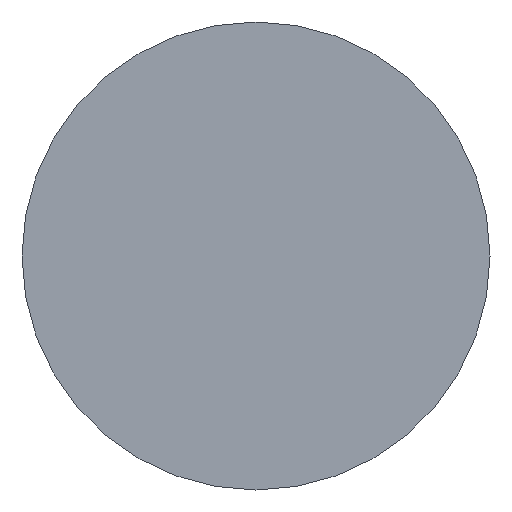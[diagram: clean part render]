
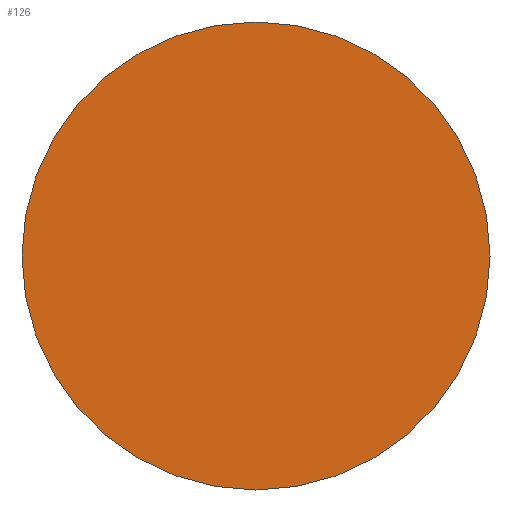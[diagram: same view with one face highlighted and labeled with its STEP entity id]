
A CAD part, front view. The second image highlights one B-rep face of the part: STEP entity #126.
In plain terms, the highlighted planar face has unit normal (0, -1, 0).
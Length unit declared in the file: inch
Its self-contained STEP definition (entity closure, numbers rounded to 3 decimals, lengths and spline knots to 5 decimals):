
#18=PLANE('',#162);
#30=FACE_OUTER_BOUND('',#38,.T.);
#38=EDGE_LOOP('',(#115,#116));
#53=CIRCLE('',#160,0.25);
#54=CIRCLE('',#161,0.25);
#66=VERTEX_POINT('',#243);
#67=VERTEX_POINT('',#244);
#82=EDGE_CURVE('',#66,#67,#53,.T.);
#83=EDGE_CURVE('',#67,#66,#54,.T.);
#115=ORIENTED_EDGE('',*,*,#82,.T.);
#116=ORIENTED_EDGE('',*,*,#83,.T.);
#126=ADVANCED_FACE('',(#30),#18,.T.);
#160=AXIS2_PLACEMENT_3D('',#245,#203,#204);
#161=AXIS2_PLACEMENT_3D('',#246,#205,#206);
#162=AXIS2_PLACEMENT_3D('',#248,#208,#209);
#203=DIRECTION('center_axis',(0.,-1.,0.));
#204=DIRECTION('ref_axis',(1.,0.,0.));
#205=DIRECTION('center_axis',(0.,-1.,0.));
#206=DIRECTION('ref_axis',(1.,0.,0.));
#208=DIRECTION('center_axis',(0.,-1.,0.));
#209=DIRECTION('ref_axis',(0.,0.,-1.));
#243=CARTESIAN_POINT('',(0.25,0.,0.));
#244=CARTESIAN_POINT('',(-0.25,0.,0.));
#245=CARTESIAN_POINT('Origin',(0.,0.,0.));
#246=CARTESIAN_POINT('Origin',(0.,0.,0.));
#248=CARTESIAN_POINT('Origin',(0.,0.,0.));
